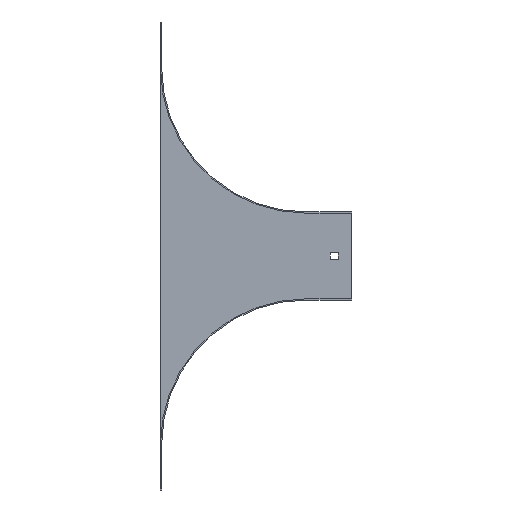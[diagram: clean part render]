
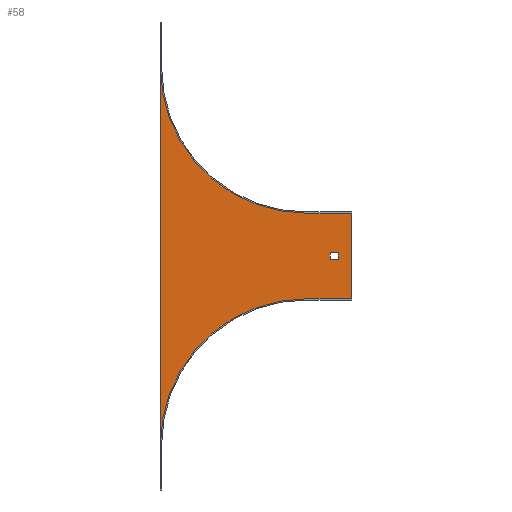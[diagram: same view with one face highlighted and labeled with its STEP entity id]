
A CAD part, front view. The second image highlights one B-rep face of the part: STEP entity #58.
In plain terms, the highlighted planar face has unit normal (0, -1, 0).
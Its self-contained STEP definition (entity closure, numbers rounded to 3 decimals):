
#5 = VECTOR ( 'NONE', #436, 1000. ) ;
#10 = CARTESIAN_POINT ( 'NONE',  ( 28.5, -1., -161.5 ) ) ;
#19 = EDGE_LOOP ( 'NONE', ( #525, #169, #212, #347 ) ) ;
#27 = VERTEX_POINT ( 'NONE', #670 ) ;
#43 = CARTESIAN_POINT ( 'NONE',  ( 0., -1., -202. ) ) ;
#44 = VERTEX_POINT ( 'NONE', #63 ) ;
#54 = CARTESIAN_POINT ( 'NONE',  ( 0., -1., -167.5 ) ) ;
#58 = ADVANCED_FACE ( 'NONE', ( #464, #224 ), #520, .T. ) ;
#63 = CARTESIAN_POINT ( 'NONE',  ( 28.5, -1., -167.5 ) ) ;
#66 = VERTEX_POINT ( 'NONE', #474 ) ;
#67 = EDGE_CURVE ( 'NONE', #653, #385, #692, .T. ) ;
#83 = CARTESIAN_POINT ( 'NONE',  ( 40., -1., -202. ) ) ;
#89 = CIRCLE ( 'NONE', #510, 127. ) ;
#93 = LINE ( 'NONE', #560, #5 ) ;
#95 = DIRECTION ( 'NONE',  ( -1., 0., 0. ) ) ;
#110 = CARTESIAN_POINT ( 'NONE',  ( 0., -1., 0. ) ) ;
#115 = DIRECTION ( 'NONE',  ( -1., 0., 0. ) ) ;
#119 = EDGE_CURVE ( 'NONE', #334, #410, #529, .T. ) ;
#122 = AXIS2_PLACEMENT_3D ( 'NONE', #460, #456, #687 ) ;
#125 = VERTEX_POINT ( 'NONE', #349 ) ;
#134 = VECTOR ( 'NONE', #95, 1000. ) ;
#141 = CARTESIAN_POINT ( 'NONE',  ( 21.5, -1., -167.5 ) ) ;
#151 = EDGE_CURVE ( 'NONE', #385, #44, #635, .T. ) ;
#169 = ORIENTED_EDGE ( 'NONE', *, *, #447, .F. ) ;
#172 = EDGE_CURVE ( 'NONE', #410, #705, #89, .T. ) ;
#212 = ORIENTED_EDGE ( 'NONE', *, *, #361, .F. ) ;
#217 = VECTOR ( 'NONE', #396, 1000. ) ;
#223 = DIRECTION ( 'NONE',  ( 0., -1., 0. ) ) ;
#224 = FACE_OUTER_BOUND ( 'NONE', #592, .T. ) ;
#247 = CARTESIAN_POINT ( 'NONE',  ( 28.5, -1., 0. ) ) ;
#258 = CARTESIAN_POINT ( 'NONE',  ( 0., -1., -161.5 ) ) ;
#292 = CARTESIAN_POINT ( 'NONE',  ( 0., -1., -202. ) ) ;
#307 = DIRECTION ( 'NONE',  ( 0., 0., 1. ) ) ;
#327 = LINE ( 'NONE', #258, #134 ) ;
#331 = LINE ( 'NONE', #506, #704 ) ;
#334 = VERTEX_POINT ( 'NONE', #83 ) ;
#347 = ORIENTED_EDGE ( 'NONE', *, *, #151, .F. ) ;
#349 = CARTESIAN_POINT ( 'NONE',  ( -127., -1., 0. ) ) ;
#353 = ORIENTED_EDGE ( 'NONE', *, *, #172, .F. ) ;
#361 = EDGE_CURVE ( 'NONE', #44, #559, #365, .T. ) ;
#365 = LINE ( 'NONE', #247, #418 ) ;
#373 = ORIENTED_EDGE ( 'NONE', *, *, #473, .F. ) ;
#385 = VERTEX_POINT ( 'NONE', #141 ) ;
#387 = CARTESIAN_POINT ( 'NONE',  ( 0., -1., -329. ) ) ;
#395 = DIRECTION ( 'NONE',  ( 0., 0., -1. ) ) ;
#396 = DIRECTION ( 'NONE',  ( 0., 0., -1. ) ) ;
#406 = ORIENTED_EDGE ( 'NONE', *, *, #509, .F. ) ;
#410 = VERTEX_POINT ( 'NONE', #43 ) ;
#415 = ORIENTED_EDGE ( 'NONE', *, *, #667, .F. ) ;
#416 = VECTOR ( 'NONE', #726, 1000. ) ;
#418 = VECTOR ( 'NONE', #307, 1000. ) ;
#424 = ORIENTED_EDGE ( 'NONE', *, *, #119, .F. ) ;
#428 = ORIENTED_EDGE ( 'NONE', *, *, #485, .F. ) ;
#436 = DIRECTION ( 'NONE',  ( 0., 0., 1. ) ) ;
#447 = EDGE_CURVE ( 'NONE', #559, #653, #327, .T. ) ;
#456 = DIRECTION ( 'NONE',  ( 0., -1., 0. ) ) ;
#460 = CARTESIAN_POINT ( 'NONE',  ( 0., -1., 0. ) ) ;
#464 = FACE_BOUND ( 'NONE', #19, .T. ) ;
#473 = EDGE_CURVE ( 'NONE', #705, #125, #93, .T. ) ;
#474 = CARTESIAN_POINT ( 'NONE',  ( 0., -1., -127. ) ) ;
#481 = CIRCLE ( 'NONE', #565, 127. ) ;
#485 = EDGE_CURVE ( 'NONE', #66, #27, #331, .T. ) ;
#486 = DIRECTION ( 'NONE',  ( 0., 0., -1. ) ) ;
#506 = CARTESIAN_POINT ( 'NONE',  ( 0., -1., -127. ) ) ;
#509 = EDGE_CURVE ( 'NONE', #125, #66, #481, .T. ) ;
#510 = AXIS2_PLACEMENT_3D ( 'NONE', #387, #626, #567 ) ;
#520 = PLANE ( 'NONE',  #122 ) ;
#525 = ORIENTED_EDGE ( 'NONE', *, *, #67, .F. ) ;
#529 = LINE ( 'NONE', #292, #647 ) ;
#531 = CARTESIAN_POINT ( 'NONE',  ( 21.5, -1., -161.5 ) ) ;
#559 = VERTEX_POINT ( 'NONE', #10 ) ;
#560 = CARTESIAN_POINT ( 'NONE',  ( -127., -1., -369. ) ) ;
#565 = AXIS2_PLACEMENT_3D ( 'NONE', #110, #223, #395 ) ;
#567 = DIRECTION ( 'NONE',  ( 0., 0., -1. ) ) ;
#591 = VECTOR ( 'NONE', #486, 1000. ) ;
#592 = EDGE_LOOP ( 'NONE', ( #353, #424, #415, #428, #406, #373 ) ) ;
#602 = CARTESIAN_POINT ( 'NONE',  ( 40., -1., -126. ) ) ;
#626 = DIRECTION ( 'NONE',  ( 0., -1., 0. ) ) ;
#635 = LINE ( 'NONE', #54, #416 ) ;
#639 = CARTESIAN_POINT ( 'NONE',  ( 21.5, -1., 0. ) ) ;
#647 = VECTOR ( 'NONE', #115, 1000. ) ;
#653 = VERTEX_POINT ( 'NONE', #531 ) ;
#667 = EDGE_CURVE ( 'NONE', #27, #334, #706, .T. ) ;
#670 = CARTESIAN_POINT ( 'NONE',  ( 40., -1., -127. ) ) ;
#687 = DIRECTION ( 'NONE',  ( 0., 0., -1. ) ) ;
#692 = LINE ( 'NONE', #639, #217 ) ;
#704 = VECTOR ( 'NONE', #727, 1000. ) ;
#705 = VERTEX_POINT ( 'NONE', #709 ) ;
#706 = LINE ( 'NONE', #602, #591 ) ;
#709 = CARTESIAN_POINT ( 'NONE',  ( -127., -1., -329. ) ) ;
#726 = DIRECTION ( 'NONE',  ( 1., 0., 0. ) ) ;
#727 = DIRECTION ( 'NONE',  ( 1., 0., 0. ) ) ;
